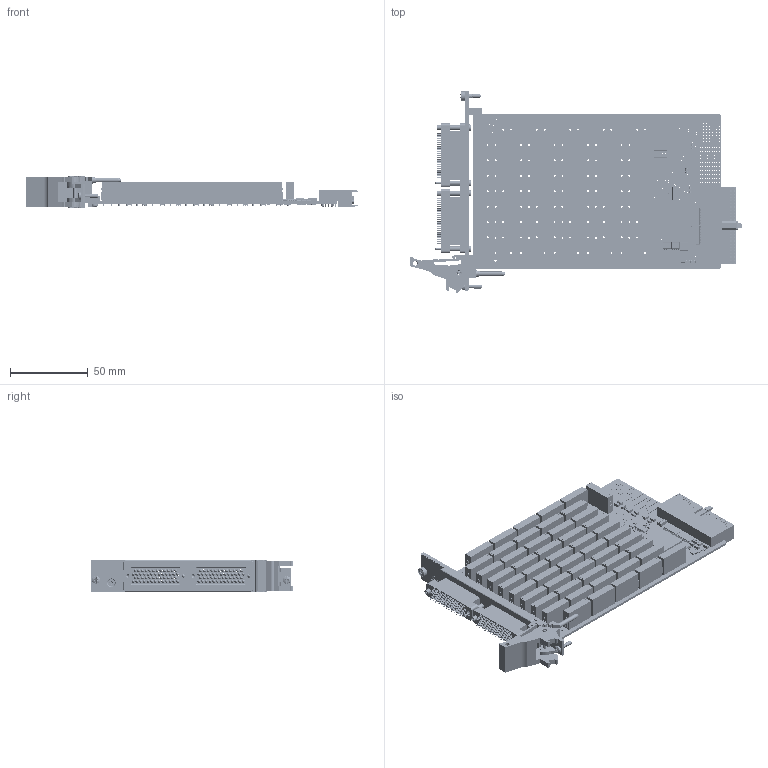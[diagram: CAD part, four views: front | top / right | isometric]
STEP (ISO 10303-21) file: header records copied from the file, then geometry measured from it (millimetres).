
FILE_DESCRIPTION (( 'STEP AP214' ), '1' );
FILE_NAME ('40-153-001 SPST x42 5A Uncommitted Relay PCB.step', '2025-09-16T12:16:51', ( '' ), ( '' ), 'SwSTEP 2.0', 'SolidWorks 2023', '' );
FILE_SCHEMA (( 'AUTOMOTIVE_DESIGN' ));
Length unit declared in the file: millimetre
Products named in the file (61): C-CN-1582-FemaleScrew 50 Way ST M Connector Screw ; 40-153-001 SPST x42 5A Uncommitted Relay PCB; Z-FX-2001 FP Fixing - Bush + Screw; C-FX-101 Screw, M2.5 x 6, Pan Hd, Pozi, Steel, BZP; C-CN-107-PIN; C-CN-1582-Body 50 Way ST M Connector Body ; C-RS-147 Res 100R 0603 1-16W 1% 100PPM; C-CP-130 CAP 1uF CERAMIC SMT 0603; C-IC-369 FPGA 17000 Cells 65nm Technology 1.2V 256-Pin FTBGA; L-FX-165 PXI Handle Label; C-FX-524 Screw, 2-56UNC x 0.1875in, Pan Hd, Pozi, A2 St Steel_ISO 7045 - M2.5 x 6 - Z --- 6N; C-IC-442 VSSOP 8PIN SD; C-RS-659 RES NW 4K7 4RES 8PINS SMT1206; C-CN-1582-MaleScrew 50 Way ST M Connector Screw ; C-FX-165 Handle Finger; C-CN-1586 Male Contact SGMC ST M Crimp 22 AWG; C-MS-803 BEAD 120R 0603 2A 0R05 25%; C-BK-026 Bush Front Panel Mounting; P-FX-017 M2,5 Collar Posi-Slot Screw; C-RS-254 Res  0603; C-BP-068 10mm Thick PXI 3U x 1 Slot Blank Panel; C-RS-521 Res 120R (0603) 1-16W 1% 100pp; C-PC-1426 SPST 5A Uncommitted Relay Mother; A-PC-1426 5A 50 X SPST Mother Card; C-FX-165 CPCI Ejector Handle; C-IC-546 24 BIT BUS SWITCH 56PIN TVSOP; C-RL-349 PLC Relay 5V; C-FX-165 Handle Pin; C-CP-099 CAP 0.1uF 16V 0402 SMT; C-SC-168 SOT363 Complementary MOSFET 20V-8V; C-CN-107-BODY; C-CP-141 CAP 10UF 1206 35V X5R 10%; L-FP-1089 1 Slot 2x50Way SGMC Label Assy; C-CN-1071; C-FX-1181 Low Profile L Shaped Reversed Mounting Block; C-FX-042 Screw M2.5x6 CSK Pozi_M 2.5x06 - C-FX-042; A-FP-1089 1 Slot 2x50Way SGMC FP+Label Assy; C-SC-056 80V 250mA (DC) SOD323 Diode; C-CN-1582 50 Way ST M Connector Assy; C-CP-124 CAP 10nF CERAMIC SMT 0402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
Assembly tree (364 placements, depth 5):
  40-153-001 SPST x42 5A Uncommitted Relay PCB
    A-PC-1426 5A 50 X SPST Mother Card
      A-PC-1426-# 5A 50 X SPST Mother Card
        C-PC-1426 SPST 5A Uncommitted Relay Mother
        C-CP-034  x25
        C-RS-147 Res 100R 0603 1-16W 1% 100PPM
        C-IC-124 16-Bit Constant Current Sink Driver  x4
        C-RS-190 Res 0R0 SIZE 0603 SMT
        C-RS-254 Res  0603  x4
        C-RL-349 PLC Relay 5V  x51
        C-SC-056 80V 250mA (DC) SOD323 Diode  x50
        C-SC-168 SOT363 Complementary MOSFET 20V-8V  x2
        C-IC-441 1kV Hex Digital Isolator
        C-CP-124 CAP 10nF CERAMIC SMT 0402  x29
        C-CP-175 CAP 22uF 1206 25V X5R 10%  x2
        C-CP-141 CAP 10UF 1206 35V X5R 10%  x7
        C-IC-425 SOICN 8PIN SD  x2
        C-RS-152 Res 10K 0603 1-16W 1% 300PPM  x2
        C-CP-099 CAP 0.1uF 16V 0402 SMT  x12
        C-IC-426 32-Flash Memory Standard Serial NOR 32Mbit SPI WSOIC-8
        C-IC-442 VSSOP 8PIN SD
        C-IC-458 LDO VOLTAGE REGULATOR 1.2V SOT
        C-IC-546 24 BIT BUS SWITCH 56PIN TVSOP  x2
        C-IC-369 FPGA 17000 Cells 65nm Technology 1.2V 256-Pin FTBGA
        C-RS-148 Res 1K 0603 1-16W 1% 100PPM  x2
        C-RS-659 RES NW 4K7 4RES 8PINS SMT1206  x4
        C-RS-521 Res 120R (0603) 1-16W 1% 100pp
        C-SC-146 Dual Transistor SOT-14  x2
        C-MS-803 BEAD 120R 0603 2A 0R05 25%  x2
        C-CN-1071
          C-CN-107-BODY
          C-CN-107-PIN  x8
        C-CP-130 CAP 1uF CERAMIC SMT 0603  x2
        C-CP-139 CAP 4.7UF 1206 16V X7R 10%  x2
        C-CP-239  Power Line Filter  x3
        C-CN-355 Compact pci connector 3_Render
    A-FP-1089-L1 1 Slot 2x50Way SGMC FP Full Assy
      A-FP-1089 1 Slot 2x50Way SGMC FP+Label Assy
        C-FP-1089 1 Slot 2x50Way SGMC Front Panel 
          C-BP-068 10mm Thick PXI 3U x 1 Slot Blank Panel
        L-FP-1089 1 Slot 2x50Way SGMC Label Assy
          L-FP-1089-# 1 Slot 2x50Way SGMC Label
      C-FX-042 Screw M2.5x6 CSK Pozi_M 2.5x06 - C-FX-042
      C-FX-101 Screw, M2.5 x 6, Pan Hd, Pozi, Steel, BZP
      C-FX-165 CPCI Ejector Handle
        C-FX-165 Handle Body
        C-FX-165 Handle Finger
        C-FX-165 Handle Pin
        P-FX-017 M2,5 Collar Posi-Slot Screw
        L-FX-165 PXI Handle Label
      Z-FX-2001 FP Fixing - Bush + Screw
        C-BK-026 Bush Front Panel Mounting
        C-FX-1176 M2,5 Collar Posi-Slot Screw
      C-FX-1181 Low Profile L Shaped Reversed Mounting Block
    C-CN-1582 50 Way ST M Connector Assy  x2
      C-CN-1582-Body 50 Way ST M Connector Body 
      C-CN-1582-FemaleScrew 50 Way ST M Connector Screw 
      C-CN-1582-MaleScrew 50 Way ST M Connector Screw 
    C-CN-1586 Male Contact SGMC ST M Crimp 22 AWG  x100
    C-FX-1180 Round Standoff 2-56UNC x 9.53mm Stainless Steel  x4
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Bounding box: 213.7 x 129.63 x 20 mm (x, y, z)
Volume: 122377.6 mm3; surface area: 131010.8 mm2
Topology: 361 solids, 388 shells, 32931 faces, 83433 edges, 52257 vertices
Faces by surface type: plane 16369, cylinder 8966, cone 3525, torus 2182, bspline 1267, sphere 622
Entity records: 457194 total; most frequent: CARTESIAN_POINT 99677, DIRECTION 56494, ORIENTED_EDGE 56002, EDGE_CURVE 28003, AXIS2_PLACEMENT_3D 19358, VERTEX_POINT 17889, LINE 17778, VECTOR 17778
